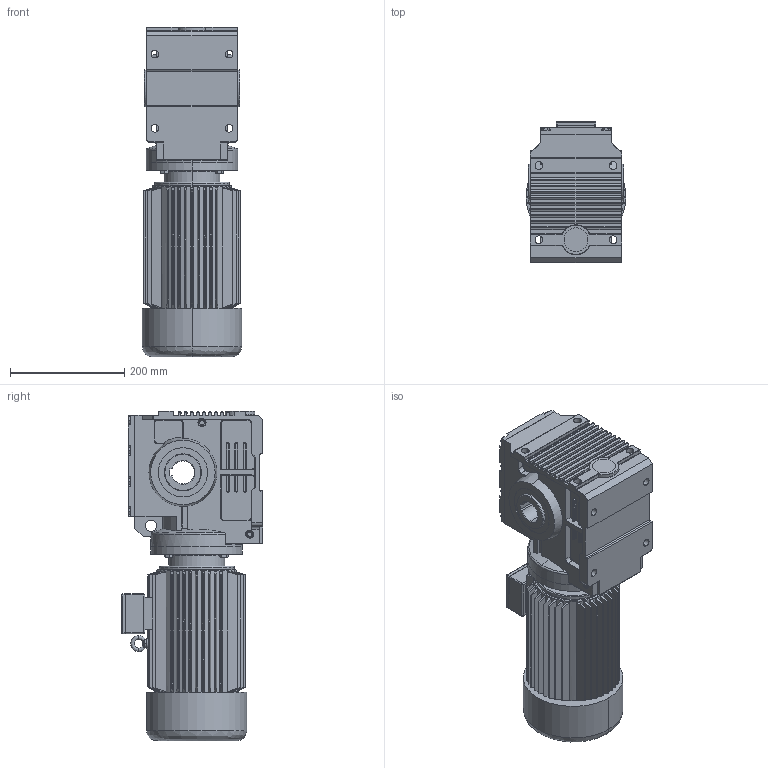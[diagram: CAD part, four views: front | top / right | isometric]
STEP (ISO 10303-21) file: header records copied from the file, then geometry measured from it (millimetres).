
FILE_DESCRIPTION (( 'STEP AP214' ), '1' );
FILE_NAME ('MSW67.step', '2020-06-27T03:46:51', ( '' ), ( '' ), 'SwSTEP 2.0', 'SolidWorks 2016', '' );
FILE_SCHEMA (( 'AUTOMOTIVE_DESIGN' ));
Length unit declared in the file: millimetre
Products named in the file (1): MSW67
Bounding box: 175 x 248.26 x 577 mm (x, y, z)
Volume: 13198189 mm3; surface area: 818849.4 mm2
Topology: 3 solids, 3 shells, 1683 faces, 4124 edges, 2462 vertices
Faces by surface type: plane 619, cylinder 507, bspline 335, cone 222
Entity records: 74737 total; most frequent: CARTESIAN_POINT 19528, ORIENTED_EDGE 8154, DIRECTION 6966, EDGE_CURVE 4077, AXIS2_PLACEMENT_3D 2511, VERTEX_POINT 2462, LINE 1944, VECTOR 1944
